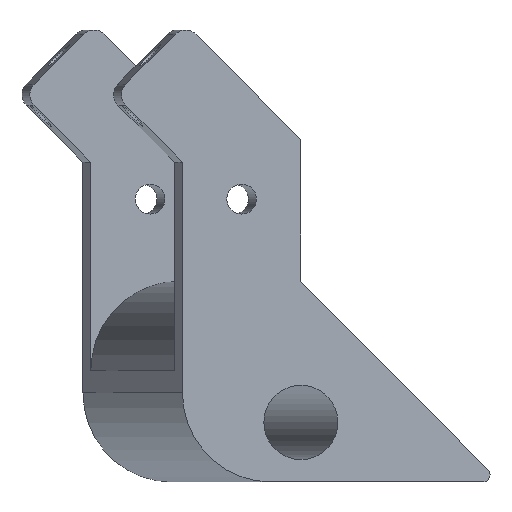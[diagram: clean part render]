
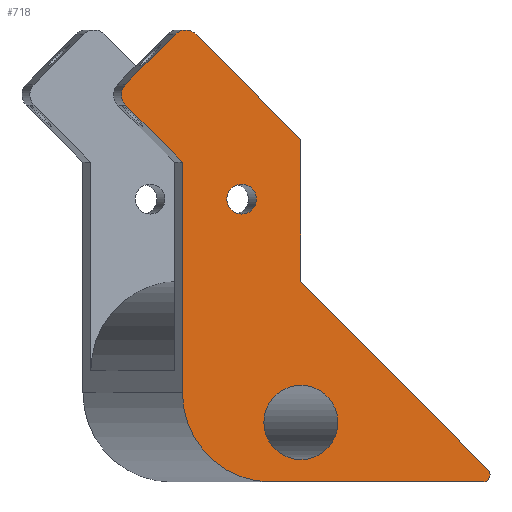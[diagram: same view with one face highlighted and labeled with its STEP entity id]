
A CAD part, front view. The second image highlights one B-rep face of the part: STEP entity #718.
In plain terms, the highlighted planar face has unit normal (0.107, -0.994, 0).
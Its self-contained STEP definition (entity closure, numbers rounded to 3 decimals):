
#33=FACE_BOUND('',#99,.T.);
#34=FACE_BOUND('',#100,.T.);
#42=PLANE('',#781);
#60=FACE_OUTER_BOUND('',#98,.T.);
#98=EDGE_LOOP('',(#490,#491,#492,#493,#494,#495,#496,#497,#498,#499,#500));
#99=EDGE_LOOP('',(#501));
#100=EDGE_LOOP('',(#502));
#145=LINE('',#1116,#207);
#148=LINE('',#1122,#210);
#149=LINE('',#1126,#211);
#150=LINE('',#1128,#212);
#151=LINE('',#1132,#213);
#152=LINE('',#1136,#214);
#153=LINE('',#1137,#215);
#207=VECTOR('',#881,10.);
#210=VECTOR('',#886,10.);
#211=VECTOR('',#889,10.);
#212=VECTOR('',#890,10.);
#213=VECTOR('',#893,10.);
#214=VECTOR('',#896,10.);
#215=VECTOR('',#897,10.);
#266=CIRCLE('',#775,2.5);
#268=CIRCLE('',#778,1.);
#270=CIRCLE('',#782,1.);
#271=CIRCLE('',#783,6.);
#272=CIRCLE('',#784,0.5);
#273=CIRCLE('',#785,1.);
#298=VERTEX_POINT('',#1099);
#301=VERTEX_POINT('',#1106);
#302=VERTEX_POINT('',#1108);
#304=VERTEX_POINT('',#1115);
#306=VERTEX_POINT('',#1121);
#307=VERTEX_POINT('',#1123);
#308=VERTEX_POINT('',#1125);
#309=VERTEX_POINT('',#1127);
#310=VERTEX_POINT('',#1129);
#311=VERTEX_POINT('',#1131);
#312=VERTEX_POINT('',#1133);
#313=VERTEX_POINT('',#1135);
#314=VERTEX_POINT('',#1138);
#367=EDGE_CURVE('',#298,#298,#266,.T.);
#370=EDGE_CURVE('',#301,#302,#268,.T.);
#374=EDGE_CURVE('',#302,#304,#145,.T.);
#377=EDGE_CURVE('',#306,#301,#148,.T.);
#378=EDGE_CURVE('',#307,#306,#270,.T.);
#379=EDGE_CURVE('',#308,#307,#149,.T.);
#380=EDGE_CURVE('',#309,#308,#150,.T.);
#381=EDGE_CURVE('',#310,#309,#271,.T.);
#382=EDGE_CURVE('',#311,#310,#151,.T.);
#383=EDGE_CURVE('',#312,#311,#272,.T.);
#384=EDGE_CURVE('',#313,#312,#152,.T.);
#385=EDGE_CURVE('',#304,#313,#153,.T.);
#386=EDGE_CURVE('',#314,#314,#273,.T.);
#490=ORIENTED_EDGE('',*,*,#370,.F.);
#491=ORIENTED_EDGE('',*,*,#377,.F.);
#492=ORIENTED_EDGE('',*,*,#378,.F.);
#493=ORIENTED_EDGE('',*,*,#379,.F.);
#494=ORIENTED_EDGE('',*,*,#380,.F.);
#495=ORIENTED_EDGE('',*,*,#381,.F.);
#496=ORIENTED_EDGE('',*,*,#382,.F.);
#497=ORIENTED_EDGE('',*,*,#383,.F.);
#498=ORIENTED_EDGE('',*,*,#384,.F.);
#499=ORIENTED_EDGE('',*,*,#385,.F.);
#500=ORIENTED_EDGE('',*,*,#374,.F.);
#501=ORIENTED_EDGE('',*,*,#367,.T.);
#502=ORIENTED_EDGE('',*,*,#386,.F.);
#718=ADVANCED_FACE('',(#60,#33,#34),#42,.T.);
#775=AXIS2_PLACEMENT_3D('',#1101,#866,#867);
#778=AXIS2_PLACEMENT_3D('',#1109,#873,#874);
#781=AXIS2_PLACEMENT_3D('',#1120,#884,#885);
#782=AXIS2_PLACEMENT_3D('',#1124,#887,#888);
#783=AXIS2_PLACEMENT_3D('',#1130,#891,#892);
#784=AXIS2_PLACEMENT_3D('',#1134,#894,#895);
#785=AXIS2_PLACEMENT_3D('',#1139,#898,#899);
#866=DIRECTION('center_axis',(-0.107,0.994,0.));
#867=DIRECTION('ref_axis',(-0.994,-0.107,0.));
#873=DIRECTION('center_axis',(-0.107,0.994,0.));
#874=DIRECTION('ref_axis',(0.,0.,1.));
#881=DIRECTION('',(0.703,0.076,-0.707));
#884=DIRECTION('center_axis',(0.107,-0.994,0.));
#885=DIRECTION('ref_axis',(0.,0.,-1.));
#886=DIRECTION('',(0.703,0.076,0.707));
#887=DIRECTION('center_axis',(-0.107,0.994,0.));
#888=DIRECTION('ref_axis',(-0.994,-0.107,0.));
#889=DIRECTION('',(-0.703,-0.076,0.707));
#890=DIRECTION('',(0.,0.,1.));
#891=DIRECTION('center_axis',(-0.107,0.994,0.));
#892=DIRECTION('ref_axis',(-0.703,-0.076,-0.707));
#893=DIRECTION('',(-0.994,-0.107,0.));
#894=DIRECTION('center_axis',(-0.107,0.994,0.));
#895=DIRECTION('ref_axis',(0.919,0.099,-0.383));
#896=DIRECTION('',(0.703,0.076,-0.707));
#897=DIRECTION('',(0.,0.,-1.));
#898=DIRECTION('center_axis',(0.107,-0.994,0.));
#899=DIRECTION('ref_axis',(-0.994,-0.107,0.));
#1099=CARTESIAN_POINT('',(8.216,-68.665,-31.896));
#1101=CARTESIAN_POINT('Origin',(5.73,-68.932,-31.896));
#1106=CARTESIAN_POINT('',(-2.707,-69.84,-5.825));
#1108=CARTESIAN_POINT('',(-1.301,-69.689,-5.825));
#1109=CARTESIAN_POINT('Origin',(-2.004,-69.764,-6.532));
#1115=CARTESIAN_POINT('',(5.73,-68.932,-12.896));
#1116=CARTESIAN_POINT('',(-2.004,-69.764,-5.117));
#1120=CARTESIAN_POINT('Origin',(4.055,-69.112,-23.647));
#1121=CARTESIAN_POINT('',(-6.03,-70.197,-9.167));
#1122=CARTESIAN_POINT('',(-6.733,-70.273,-9.874));
#1123=CARTESIAN_POINT('',(-6.03,-70.197,-10.581));
#1124=CARTESIAN_POINT('Origin',(-5.327,-70.122,-9.874));
#1125=CARTESIAN_POINT('',(-2.224,-69.788,-14.409));
#1126=CARTESIAN_POINT('',(-2.224,-69.788,-14.409));
#1127=CARTESIAN_POINT('',(-2.224,-69.788,-29.896));
#1128=CARTESIAN_POINT('',(-2.224,-69.788,-35.896));
#1129=CARTESIAN_POINT('',(3.741,-69.146,-35.896));
#1130=CARTESIAN_POINT('Origin',(3.741,-69.146,-29.896));
#1131=CARTESIAN_POINT('',(17.939,-67.619,-35.896));
#1132=CARTESIAN_POINT('',(19.14,-67.489,-35.896));
#1133=CARTESIAN_POINT('',(18.291,-67.581,-35.042));
#1134=CARTESIAN_POINT('Origin',(17.939,-67.619,-35.396));
#1135=CARTESIAN_POINT('',(5.73,-68.932,-22.409));
#1136=CARTESIAN_POINT('',(5.73,-68.932,-22.409));
#1137=CARTESIAN_POINT('',(5.73,-68.932,-12.896));
#1138=CARTESIAN_POINT('',(2.747,-69.253,-16.896));
#1139=CARTESIAN_POINT('Origin',(1.753,-69.36,-16.896));
